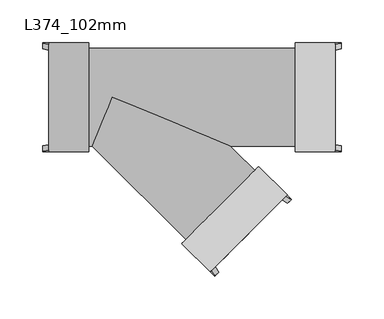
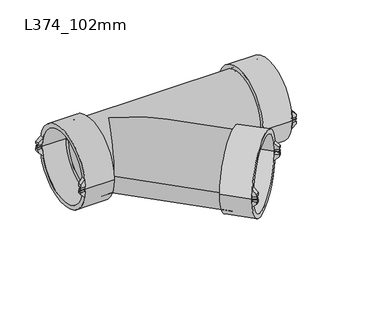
"""IFC4 building model written with IfcOpenShell, lengths in millimetres: pipe fitting geometry, Durapipe_PipeFitting_VulcatheneEnfusion_SingleWye_L37 : L374_102mm."""

from ifc_helpers import new_model, si_unit, point, frame, frame_2d, origin, place, context, project, spatial, polyline, circle_curve, ellipse_curve, trimmed, segment, composite_curve, outline, extrude, source, transform, mapped, element, save
from ifc_brep_helpers import plane_surface, cylinder_surface, revolved_surface, advanced_brep


def l374_102mm_1b7b02f5(model_context):
    return source(origin(), model_context, "Body", "SolidModel", [
        advanced_brep(
        [(204.6909011, -123.8309095, 5.784761), (209.1810291, -119.3407814, 5.987723), (208.9166938, -119.6051167, 9.9669854), (204.3872457, -124.1345648, 9.9669854), (202.9801459, -115.5007483, 17.0269854), (204.160571, -114.3203232, 5.987723), (199.6704429, -118.8104513, 5.784761), (198.3447308, -120.1361635, 17.0269854)],
        [
            (0, 1, circle_curve(frame((207.0231879, -121.4986227, 2.0269854), z_axis=(-0.7071067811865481, 0.7071067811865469, 0.0), x_axis=(-0.7071067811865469, -0.7071067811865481, 0.0)), 5.0)),
            (1, 2, circle_curve(frame((164.2609053, -164.2609053, 2.0269854), z_axis=(0.7071067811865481, -0.7071067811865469, 0.0), x_axis=(-0.7071067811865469, -0.7071067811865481, 0.0)), 63.65)),
            (2, 3),
            (3, 0, circle_curve(frame((164.2609053, -164.2609053, 2.0269854), z_axis=(-0.7071067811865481, 0.7071067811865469, 0.0), x_axis=(-0.7071067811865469, -0.7071067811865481, 0.0)), 57.3)),
            (4, 5, circle_curve(frame((159.2404471, -159.2404471, 2.0269854), z_axis=(-0.7071067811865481, 0.7071067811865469, 0.0), x_axis=(-0.7071067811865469, -0.7071067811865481, 0.0)), 63.65)),
            (5, 6, circle_curve(frame((202.0027297, -116.4781645, 2.0269854), z_axis=(0.7071067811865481, -0.7071067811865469, 0.0), x_axis=(-0.7071067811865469, -0.7071067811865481, 0.0)), 5.0)),
            (6, 7, circle_curve(frame((159.2404471, -159.2404471, 2.0269854), z_axis=(0.7071067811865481, -0.7071067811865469, 0.0), x_axis=(-0.7071067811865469, -0.7071067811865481, 0.0)), 57.3)),
            (7, 4),
            (6, 0),
            (3, 7, ellipse_curve(frame((169.9071429, -169.9071429, 2.0269854), z_axis=(0.4985855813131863, -0.4985855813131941, 0.7091014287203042), x_axis=(-0.5014104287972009, 0.5014104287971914, 0.7051064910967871)), 81.2643207, 57.3)),
            (4, 2, ellipse_curve(frame((169.9071429, -169.9071429, 2.0269854), z_axis=(-0.4985855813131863, 0.4985855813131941, -0.7091014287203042), x_axis=(0.5014104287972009, -0.5014104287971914, -0.7051064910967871)), 90.2700525, 63.65)),
            (1, 5),
        ],
        [
            plane_surface(frame((208.0006041, -120.5212065, 17.0269854), z_axis=(0.7071067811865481, -0.7071067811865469, 0.0), x_axis=(-0.7071067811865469, -0.7071067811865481, 0.0))),
            plane_surface(frame((202.9801459, -115.5007483, 17.0269854), z_axis=(-0.7071067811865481, 0.7071067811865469, 0.0), x_axis=(0.7071067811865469, 0.7071067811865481, 0.0))),
            revolved_surface(polyline([(88.64314644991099, -169.67758357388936, 2.0269854), (170.13670222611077, -251.17113935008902, 2.0269854)]), (159.2404471, -159.2404471, 2.0269854), (-0.7071067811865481, 0.7071067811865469, 0.0)),
            cylinder_surface(frame((159.2404471, -159.2404471, 2.0269854), z_axis=(0.7071067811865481, -0.7071067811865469, 0.0), x_axis=(-0.7071067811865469, -0.7071067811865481, 0.0)), 63.65),
            revolved_surface(polyline([(203.48765399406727, -125.03415660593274, 2.0269854), (198.46719579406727, -120.01369840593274, 2.0269854)]), (202.0027297, -116.4781645, 2.0269854), (0.7071067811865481, -0.7071067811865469, 0.0)),
            plane_surface(frame((114.2331005, -204.2477937, 17.0269854), z_axis=(0.4985855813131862, -0.49858558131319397, 0.7091014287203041), x_axis=(0.7071067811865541, 0.7071067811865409, 0.0))),
        ],
        [
            (0, [[1, 2, 3, 4]]),
            (1, [[5, 6, 7, 8]]),
            (2, [[-7, 9, -4, 10]]),
            (3, [[-5, 11, -2, 12]]),
            (4, [[-1, -9, -6, -12]]),
            (5, [[-3, -11, -8, -10]]),
        ],
    ),
        advanced_brep(
        [(209.1810291, -119.3407814, -1.9337521), (204.6909011, -123.8309095, -1.7307901), (204.3872457, -124.1345648, -5.9130146), (208.9166938, -119.6051167, -5.9130146), (204.160571, -114.3203232, -1.9337521), (202.9801459, -115.5007483, -12.9730146), (198.3447308, -120.1361635, -12.9730146), (199.6704429, -118.8104513, -1.7307901)],
        [
            (0, 1, circle_curve(frame((207.0231879, -121.4986227, 2.0269854), z_axis=(-0.7071067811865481, 0.7071067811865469, 0.0), x_axis=(-0.7071067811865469, -0.7071067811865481, 0.0)), 5.0)),
            (1, 2, circle_curve(frame((164.2609053, -164.2609053, 2.0269854), z_axis=(-0.7071067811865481, 0.7071067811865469, 0.0), x_axis=(-0.7071067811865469, -0.7071067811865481, 0.0)), 57.3)),
            (2, 3),
            (3, 0, circle_curve(frame((164.2609053, -164.2609053, 2.0269854), z_axis=(0.7071067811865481, -0.7071067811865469, 0.0), x_axis=(-0.7071067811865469, -0.7071067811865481, 0.0)), 63.65)),
            (4, 5, circle_curve(frame((159.2404471, -159.2404471, 2.0269854), z_axis=(-0.7071067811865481, 0.7071067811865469, 0.0), x_axis=(-0.7071067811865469, -0.7071067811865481, 0.0)), 63.65)),
            (5, 6),
            (6, 7, circle_curve(frame((159.2404471, -159.2404471, 2.0269854), z_axis=(0.7071067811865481, -0.7071067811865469, 0.0), x_axis=(-0.7071067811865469, -0.7071067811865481, 0.0)), 57.3)),
            (7, 4, circle_curve(frame((202.0027297, -116.4781645, 2.0269854), z_axis=(0.7071067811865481, -0.7071067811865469, 0.0), x_axis=(-0.7071067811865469, -0.7071067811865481, 0.0)), 5.0)),
            (6, 2, ellipse_curve(frame((169.9071429, -169.9071429, 2.0269854), z_axis=(0.49858558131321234, -0.4985855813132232, -0.7091014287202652), x_axis=(-0.5014104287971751, 0.5014104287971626, -0.7051064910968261)), 81.2643207, 57.3)),
            (1, 7),
            (4, 0),
            (3, 5, ellipse_curve(frame((169.9071429, -169.9071429, 2.0269854), z_axis=(-0.49858558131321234, 0.4985855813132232, 0.7091014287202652), x_axis=(0.5014104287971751, -0.5014104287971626, 0.7051064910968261)), 90.2700525, 63.65)),
        ],
        [
            plane_surface(frame((208.0006041, -120.5212065, 17.0269854), z_axis=(0.7071067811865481, -0.7071067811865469, 0.0), x_axis=(-0.7071067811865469, -0.7071067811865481, 0.0))),
            plane_surface(frame((202.9801459, -115.5007483, 17.0269854), z_axis=(-0.7071067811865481, 0.7071067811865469, 0.0), x_axis=(0.7071067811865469, 0.7071067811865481, 0.0))),
            revolved_surface(polyline([(88.6431464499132, -169.67758357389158, 2.0269854), (170.13670222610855, -251.1711393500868, 2.0269854)]), (159.2404471, -159.2404471, 2.0269854), (-0.7071067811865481, 0.7071067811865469, 0.0)),
            cylinder_surface(frame((159.2404471, -159.2404471, 2.0269854), z_axis=(0.7071067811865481, -0.7071067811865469, 0.0), x_axis=(-0.7071067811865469, -0.7071067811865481, 0.0)), 63.65),
            revolved_surface(polyline([(203.48765399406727, -125.03415660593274, 2.0269854), (198.46719579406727, -120.01369840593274, 2.0269854)]), (202.0027297, -116.4781645, 2.0269854), (0.7071067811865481, -0.7071067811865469, 0.0)),
            plane_surface(frame((119.2535586, -209.2682519, -5.9130146), z_axis=(0.49858558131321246, -0.49858558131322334, -0.7091014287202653), x_axis=(0.7071067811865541, 0.7071067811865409, 0.0))),
        ],
        [
            (0, [[1, 2, 3, 4]]),
            (1, [[5, 6, 7, 8]]),
            (2, [[-7, 9, -2, 10]]),
            (3, [[-5, 11, -4, 12]]),
            (4, [[-1, -11, -8, -10]]),
            (5, [[-3, -9, -6, -12]]),
        ],
    ),
        advanced_brep(
        [(119.3407814, -209.1810291, 5.987723), (123.8309095, -204.6909011, 5.784761), (124.1345648, -204.3872457, 9.9669854), (119.6051167, -208.9166938, 9.9669854), (114.3203232, -204.160571, 5.987723), (115.5007483, -202.9801459, 17.0269854), (120.1361635, -198.3447308, 17.0269854), (118.8104513, -199.6704429, 5.784761)],
        [
            (0, 1, circle_curve(frame((121.4986227, -207.0231879, 2.0269854), z_axis=(-0.7071067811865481, 0.7071067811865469, 0.0), x_axis=(-0.7071067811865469, -0.7071067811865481, 0.0)), 5.0)),
            (1, 2, circle_curve(frame((164.2609053, -164.2609053, 2.0269854), z_axis=(-0.7071067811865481, 0.7071067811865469, 0.0), x_axis=(-0.7071067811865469, -0.7071067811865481, 0.0)), 57.3)),
            (2, 3),
            (3, 0, circle_curve(frame((164.2609053, -164.2609053, 2.0269854), z_axis=(0.7071067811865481, -0.7071067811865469, 0.0), x_axis=(-0.7071067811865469, -0.7071067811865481, 0.0)), 63.65)),
            (4, 5, circle_curve(frame((159.2404471, -159.2404471, 2.0269854), z_axis=(-0.7071067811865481, 0.7071067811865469, 0.0), x_axis=(-0.7071067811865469, -0.7071067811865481, 0.0)), 63.65)),
            (5, 6),
            (6, 7, circle_curve(frame((159.2404471, -159.2404471, 2.0269854), z_axis=(0.7071067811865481, -0.7071067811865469, 0.0), x_axis=(-0.7071067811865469, -0.7071067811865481, 0.0)), 57.3)),
            (7, 4, circle_curve(frame((116.4781645, -202.0027297, 2.0269854), z_axis=(0.7071067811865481, -0.7071067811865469, 0.0), x_axis=(-0.7071067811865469, -0.7071067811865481, 0.0)), 5.0)),
            (6, 2, ellipse_curve(frame((169.9071429, -169.9071429, 2.0269854), z_axis=(0.4985855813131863, -0.4985855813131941, 0.7091014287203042), x_axis=(-0.5014104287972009, 0.5014104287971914, 0.7051064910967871)), 81.2643207, 57.3)),
            (1, 7),
            (4, 0),
            (3, 5, ellipse_curve(frame((169.9071429, -169.9071429, 2.0269854), z_axis=(-0.4985855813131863, 0.4985855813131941, -0.7091014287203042), x_axis=(0.5014104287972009, -0.5014104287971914, -0.7051064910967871)), 90.2700525, 63.65)),
        ],
        [
            plane_surface(frame((208.0006041, -120.5212065, 17.0269854), z_axis=(0.7071067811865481, -0.7071067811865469, 0.0), x_axis=(-0.7071067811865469, -0.7071067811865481, 0.0))),
            plane_surface(frame((202.9801459, -115.5007483, 17.0269854), z_axis=(-0.7071067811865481, 0.7071067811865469, 0.0), x_axis=(0.7071067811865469, 0.7071067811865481, 0.0))),
            revolved_surface(polyline([(88.64314644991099, -169.67758357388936, 2.0269854), (170.13670222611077, -251.17113935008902, 2.0269854)]), (159.2404471, -159.2404471, 2.0269854), (-0.7071067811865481, 0.7071067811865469, 0.0)),
            cylinder_surface(frame((159.2404471, -159.2404471, 2.0269854), z_axis=(0.7071067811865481, -0.7071067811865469, 0.0), x_axis=(-0.7071067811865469, -0.7071067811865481, 0.0)), 63.65),
            revolved_surface(polyline([(117.96308879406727, -210.55872180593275, 2.0269854), (112.94263059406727, -205.53826360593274, 2.0269854)]), (116.4781645, -202.0027297, 2.0269854), (0.7071067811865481, -0.7071067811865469, 0.0)),
            plane_surface(frame((114.2331005, -204.2477937, 17.0269854), z_axis=(0.4985855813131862, -0.49858558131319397, 0.7091014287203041), x_axis=(0.7071067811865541, 0.7071067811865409, 0.0))),
        ],
        [
            (0, [[1, 2, 3, 4]]),
            (1, [[5, 6, 7, 8]]),
            (2, [[-7, 9, -2, 10]]),
            (3, [[-5, 11, -4, 12]]),
            (4, [[-1, -11, -8, -10]]),
            (5, [[-3, -9, -6, -12]]),
        ],
    ),
        advanced_brep(
        [(123.8309095, -204.6909011, -1.7307901), (119.3407814, -209.1810291, -1.9337521), (119.6051167, -208.9166938, -5.9130146), (124.1345648, -204.3872457, -5.9130146), (115.5007483, -202.9801459, -12.9730146), (114.3203232, -204.160571, -1.9337521), (118.8104513, -199.6704429, -1.7307901), (120.1361635, -198.3447308, -12.9730146)],
        [
            (0, 1, circle_curve(frame((121.4986227, -207.0231879, 2.0269854), z_axis=(-0.7071067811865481, 0.7071067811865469, 0.0), x_axis=(-0.7071067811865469, -0.7071067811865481, 0.0)), 5.0)),
            (1, 2, circle_curve(frame((164.2609053, -164.2609053, 2.0269854), z_axis=(0.7071067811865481, -0.7071067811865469, 0.0), x_axis=(-0.7071067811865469, -0.7071067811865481, 0.0)), 63.65)),
            (2, 3),
            (3, 0, circle_curve(frame((164.2609053, -164.2609053, 2.0269854), z_axis=(-0.7071067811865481, 0.7071067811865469, 0.0), x_axis=(-0.7071067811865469, -0.7071067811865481, 0.0)), 57.3)),
            (4, 5, circle_curve(frame((159.2404471, -159.2404471, 2.0269854), z_axis=(-0.7071067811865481, 0.7071067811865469, 0.0), x_axis=(-0.7071067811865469, -0.7071067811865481, 0.0)), 63.65)),
            (5, 6, circle_curve(frame((116.4781645, -202.0027297, 2.0269854), z_axis=(0.7071067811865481, -0.7071067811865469, 0.0), x_axis=(-0.7071067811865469, -0.7071067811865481, 0.0)), 5.0)),
            (6, 7, circle_curve(frame((159.2404471, -159.2404471, 2.0269854), z_axis=(0.7071067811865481, -0.7071067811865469, 0.0), x_axis=(-0.7071067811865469, -0.7071067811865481, 0.0)), 57.3)),
            (7, 4),
            (6, 0),
            (3, 7, ellipse_curve(frame((169.9071429, -169.9071429, 2.0269854), z_axis=(0.49858558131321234, -0.4985855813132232, -0.7091014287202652), x_axis=(-0.5014104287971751, 0.5014104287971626, -0.7051064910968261)), 81.2643207, 57.3)),
            (4, 2, ellipse_curve(frame((169.9071429, -169.9071429, 2.0269854), z_axis=(-0.49858558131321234, 0.4985855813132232, 0.7091014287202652), x_axis=(0.5014104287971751, -0.5014104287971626, 0.7051064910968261)), 90.2700525, 63.65)),
            (1, 5),
        ],
        [
            plane_surface(frame((208.0006041, -120.5212065, 17.0269854), z_axis=(0.7071067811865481, -0.7071067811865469, 0.0), x_axis=(-0.7071067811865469, -0.7071067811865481, 0.0))),
            plane_surface(frame((202.9801459, -115.5007483, 17.0269854), z_axis=(-0.7071067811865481, 0.7071067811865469, 0.0), x_axis=(0.7071067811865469, 0.7071067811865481, 0.0))),
            revolved_surface(polyline([(88.6431464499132, -169.67758357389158, 2.0269854), (170.13670222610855, -251.1711393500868, 2.0269854)]), (159.2404471, -159.2404471, 2.0269854), (-0.7071067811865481, 0.7071067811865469, 0.0)),
            cylinder_surface(frame((159.2404471, -159.2404471, 2.0269854), z_axis=(0.7071067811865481, -0.7071067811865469, 0.0), x_axis=(-0.7071067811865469, -0.7071067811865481, 0.0)), 63.65),
            revolved_surface(polyline([(117.96308879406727, -210.55872180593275, 2.0269854), (112.94263059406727, -205.53826360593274, 2.0269854)]), (116.4781645, -202.0027297, 2.0269854), (0.7071067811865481, -0.7071067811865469, 0.0)),
            plane_surface(frame((119.2535586, -209.2682519, -5.9130146), z_axis=(0.49858558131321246, -0.49858558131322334, -0.7091014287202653), x_axis=(0.7071067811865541, 0.7071067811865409, 0.0))),
        ],
        [
            (0, [[1, 2, 3, 4]]),
            (1, [[5, 6, 7, 8]]),
            (2, [[-7, 9, -4, 10]]),
            (3, [[-5, 11, -2, 12]]),
            (4, [[-1, -9, -6, -12]]),
            (5, [[-3, -11, -8, -10]]),
        ],
    ),
        extrude(outline(composite_curve([segment(trimmed(circle_curve(frame_2d((0.0, -2.0)), 2.0), [point((0.0, -4.0))], [point((0.0, 0.0))], False, "CARTESIAN"), True, "CONTINUOUS"), segment(trimmed(circle_curve(frame_2d((0.0, -2.0)), 2.0), [point((0.0, 0.0))], [point((0.0, -4.0))], False, "CARTESIAN"), True, "CONTINUOUS")], self_intersect=False)), frame((205.6089743, -122.9128362, 2.0269854), z_axis=(-0.7071067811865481, 0.7071067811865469, 0.0), x_axis=(0.0, 0.0, -1.0)), (0.0, 0.0, 1.0), 7.1),
        extrude(outline(composite_curve([segment(trimmed(circle_curve(frame_2d((0.0, 118.95)), 2.0), [point((0.0, 116.9500001))], [point((0.0, 120.95))], False, "CARTESIAN"), True, "CONTINUOUS"), segment(trimmed(circle_curve(frame_2d((0.0, 118.95)), 2.0), [point((0.0, 120.95))], [point((0.0, 116.9500001))], False, "CARTESIAN"), True, "CONTINUOUS")], self_intersect=False)), frame((205.6089743, -122.9128362, 2.0269854), z_axis=(-0.7071067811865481, 0.7071067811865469, 0.0), x_axis=(0.0, 0.0, -1.0)), (0.0, 0.0, 1.0), 7.1),
        advanced_brep(
        [(168.1853479, -96.4140096, 2.0269854), (96.4140096, -168.1853479, 2.0269854), (91.8885262, -172.7108313, 2.0269854), (172.7108313, -91.8885262, 2.0269854), (161.9628082, -90.1914699, 2.0269854), (90.1914699, -161.9628082, 2.0269854), (171.1905517, -80.9637264, 2.0269854), (80.9637264, -171.1905517, 2.0269854), (204.3538598, -114.1270345, 2.0269854), (114.1270345, -204.3538598, 2.0269854), (199.6515997, -118.8292946, 2.0269854), (118.8292946, -199.6515997, 2.0269854)],
        [
            (0, 1, circle_curve(frame((132.2996788, -132.2996788, 2.0269854), z_axis=(-0.7071067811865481, 0.7071067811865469, 0.0), x_axis=(-0.7071067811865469, -0.7071067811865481, 0.0)), 50.75)),
            (1, 2),
            (2, 3, circle_curve(frame((132.2996788, -132.2996788, 2.0269854), z_axis=(0.7071067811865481, -0.7071067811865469, 0.0), x_axis=(-0.7071067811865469, -0.7071067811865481, 0.0)), 57.15)),
            (3, 0),
            (1, 0, circle_curve(frame((132.2996788, -132.2996788, 2.0269854), z_axis=(-0.7071067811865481, 0.7071067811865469, 0.0), x_axis=(-0.7071067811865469, -0.7071067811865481, 0.0)), 50.75)),
            (3, 2, circle_curve(frame((132.2996788, -132.2996788, 2.0269854), z_axis=(0.7071067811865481, -0.7071067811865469, 0.0), x_axis=(-0.7071067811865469, -0.7071067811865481, 0.0)), 57.15)),
            (4, 5, circle_curve(frame((126.0771391, -126.0771391, 2.0269854), z_axis=(-0.7071067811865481, 0.7071067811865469, 0.0), x_axis=(-0.7071067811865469, -0.7071067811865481, 0.0)), 50.75)),
            (5, 1),
            (0, 4),
            (5, 4, circle_curve(frame((126.0771391, -126.0771391, 2.0269854), z_axis=(-0.7071067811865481, 0.7071067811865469, 0.0), x_axis=(-0.7071067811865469, -0.7071067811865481, 0.0)), 50.75)),
            (6, 7, circle_curve(frame((126.0771391, -126.0771391, 2.0269854), z_axis=(-0.7071067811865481, 0.7071067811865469, 0.0), x_axis=(-0.7071067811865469, -0.7071067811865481, 0.0)), 63.8)),
            (7, 5),
            (4, 6),
            (7, 6, circle_curve(frame((126.0771391, -126.0771391, 2.0269854), z_axis=(-0.7071067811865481, 0.7071067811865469, 0.0), x_axis=(-0.7071067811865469, -0.7071067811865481, 0.0)), 63.8)),
            (8, 9, circle_curve(frame((159.2404471, -159.2404471, 2.0269854), z_axis=(-0.7071067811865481, 0.7071067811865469, 0.0), x_axis=(-0.7071067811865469, -0.7071067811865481, 0.0)), 63.8)),
            (9, 7),
            (6, 8),
            (9, 8, circle_curve(frame((159.2404471, -159.2404471, 2.0269854), z_axis=(-0.7071067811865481, 0.7071067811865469, 0.0), x_axis=(-0.7071067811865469, -0.7071067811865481, 0.0)), 63.8)),
            (10, 11, circle_curve(frame((159.2404471, -159.2404471, 2.0269854), z_axis=(-0.7071067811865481, 0.7071067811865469, 0.0), x_axis=(-0.7071067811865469, -0.7071067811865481, 0.0)), 57.15)),
            (11, 9),
            (8, 10),
            (11, 10, circle_curve(frame((159.2404471, -159.2404471, 2.0269854), z_axis=(-0.7071067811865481, 0.7071067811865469, 0.0), x_axis=(-0.7071067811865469, -0.7071067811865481, 0.0)), 57.15)),
            (2, 11),
            (10, 3),
        ],
        [
            plane_surface(frame((132.2996788, -132.2996788, 2.0269854), z_axis=(0.7071067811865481, -0.7071067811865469, 0.0), x_axis=(-0.7071067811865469, -0.7071067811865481, 0.0))),
            revolved_surface(polyline([(96.41400965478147, -168.1853479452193, 2.0269854), (90.19146990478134, -161.96280819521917, 2.0269854)]), (1936.8946084, -1936.8946084, 2.0269854), (0.7071067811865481, -0.7071067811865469, 0.0)),
            plane_surface(frame((126.0771391, -126.0771391, 2.0269854), z_axis=(-0.7071067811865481, 0.7071067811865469, 0.0), x_axis=(-0.7071067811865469, -0.7071067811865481, 0.0))),
            cylinder_surface(frame((1936.8946084, -1936.8946084, 2.0269854), z_axis=(0.7071067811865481, -0.7071067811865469, 0.0), x_axis=(-0.7071067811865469, -0.7071067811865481, 0.0)), 63.8),
            plane_surface(frame((159.2404471, -159.2404471, 2.0269854), z_axis=(0.7071067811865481, -0.7071067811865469, 0.0), x_axis=(-0.7071067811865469, -0.7071067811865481, 0.0))),
            revolved_surface(polyline([(118.82929460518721, -199.6515996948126, 2.0269854), (91.88852620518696, -172.71083129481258, 2.0269854)]), (1936.8946084, -1936.8946084, 2.0269854), (0.7071067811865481, -0.7071067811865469, 0.0)),
        ],
        [
            (0, [[1, 2, 3, 4]]),
            (0, [[5, -4, 6, -2]]),
            (1, [[7, 8, -1, 9]]),
            (1, [[10, -9, -5, -8]]),
            (2, [[11, 12, -7, 13]]),
            (2, [[14, -13, -10, -12]]),
            (3, [[15, 16, -11, 17]]),
            (3, [[18, -17, -14, -16]]),
            (4, [[19, 20, -15, 21]]),
            (4, [[22, -21, -18, -20]]),
            (5, [[-3, 23, -19, 24]]),
            (5, [[-6, -24, -22, -23]]),
        ],
    ),
        advanced_brep(
        [(-81.6, -57.1766484, 3.7577755), (-81.6, -63.5266484, 3.9607376), (-81.6, -63.1528218, 7.94), (-81.6, -56.7472149, 7.94), (-74.5, -61.8572752, 15.0), (-74.5, -63.5266484, 3.9607376), (-74.5, -57.1766484, 3.7577755), (-74.5, -55.3018083, 15.0)],
        [
            (0, 1, circle_curve(frame((-81.6, -60.475, 0.0), z_axis=(1.0, 0.0, 0.0), x_axis=(0.0, 1.0, 0.0)), 5.0)),
            (1, 2, circle_curve(frame((-81.6, 0.0, 0.0), z_axis=(-1.0, 0.0, 0.0), x_axis=(0.0, 1.0, 0.0)), 63.65)),
            (2, 3),
            (3, 0, circle_curve(frame((-81.6, 0.0, 0.0), z_axis=(1.0, 0.0, 0.0), x_axis=(0.0, 1.0, 0.0)), 57.3)),
            (4, 5, circle_curve(frame((-74.5, 0.0, 0.0), z_axis=(1.0, 0.0, 0.0), x_axis=(0.0, 1.0, 0.0)), 63.65)),
            (5, 6, circle_curve(frame((-74.5, -60.475, 0.0), z_axis=(-1.0, 0.0, 0.0), x_axis=(0.0, 1.0, 0.0)), 5.0)),
            (6, 7, circle_curve(frame((-74.5, 0.0, 0.0), z_axis=(-1.0, 0.0, 0.0), x_axis=(0.0, 1.0, 0.0)), 57.3)),
            (7, 4),
            (6, 0),
            (3, 7, ellipse_curve(frame((-89.5849858, 0.0, 0.0), z_axis=(-0.705106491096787, 0.0, 0.7091014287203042), x_axis=(0.7091014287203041, 0.0, 0.705106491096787)), 81.2643207, 57.3)),
            (4, 2, ellipse_curve(frame((-89.5849858, 0.0, 0.0), z_axis=(0.705106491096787, 0.0, -0.7091014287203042), x_axis=(-0.7091014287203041, 0.0, -0.705106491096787)), 90.2700525, 63.65)),
            (1, 5),
        ],
        [
            plane_surface(frame((-81.6, -61.8572752, 15.0), z_axis=(-1.0, 0.0, 0.0), x_axis=(0.0, 1.0, 0.0))),
            plane_surface(frame((-74.5, -61.8572752, 15.0), z_axis=(1.0, 0.0, 0.0), x_axis=(0.0, -1.0, 0.0))),
            revolved_surface(polyline([(-31.960339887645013, 57.3, 0.0), (-147.209631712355, 57.3, 0.0)]), (-74.5, 0.0, 0.0), (1.0, 0.0, 0.0)),
            cylinder_surface(frame((-74.5, 0.0, 0.0), z_axis=(-1.0, 0.0, 0.0), x_axis=(0.0, 1.0, 0.0)), 63.65),
            revolved_surface(polyline([(-81.6, -55.475, 0.0), (-74.5, -55.475, 0.0)]), (-74.5, -60.475, 0.0), (-1.0, 0.0, 0.0)),
            plane_surface(frame((-74.5, 63.65, 15.0), z_axis=(-0.705106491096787, 0.0, 0.7091014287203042), x_axis=(0.0, -1.0, 0.0))),
        ],
        [
            (0, [[1, 2, 3, 4]]),
            (1, [[5, 6, 7, 8]]),
            (2, [[-7, 9, -4, 10]]),
            (3, [[-5, 11, -2, 12]]),
            (4, [[-1, -9, -6, -12]]),
            (5, [[-3, -11, -8, -10]]),
        ],
    ),
        advanced_brep(
        [(-81.6, -63.5266484, -3.9607376), (-81.6, -57.1766484, -3.7577755), (-81.6, -56.7472149, -7.94), (-81.6, -63.1528218, -7.94), (-74.5, -63.5266484, -3.9607376), (-74.5, -61.8572752, -15.0), (-74.5, -55.3018083, -15.0), (-74.5, -57.1766484, -3.7577755)],
        [
            (0, 1, circle_curve(frame((-81.6, -60.475, 0.0), z_axis=(1.0, 0.0, 0.0), x_axis=(0.0, 1.0, 0.0)), 5.0)),
            (1, 2, circle_curve(frame((-81.6, 0.0, 0.0), z_axis=(1.0, 0.0, 0.0), x_axis=(0.0, 1.0, 0.0)), 57.3)),
            (2, 3),
            (3, 0, circle_curve(frame((-81.6, 0.0, 0.0), z_axis=(-1.0, 0.0, 0.0), x_axis=(0.0, 1.0, 0.0)), 63.65)),
            (4, 5, circle_curve(frame((-74.5, 0.0, 0.0), z_axis=(1.0, 0.0, 0.0), x_axis=(0.0, 1.0, 0.0)), 63.65)),
            (5, 6),
            (6, 7, circle_curve(frame((-74.5, 0.0, 0.0), z_axis=(-1.0, 0.0, 0.0), x_axis=(0.0, 1.0, 0.0)), 57.3)),
            (7, 4, circle_curve(frame((-74.5, -60.475, 0.0), z_axis=(-1.0, 0.0, 0.0), x_axis=(0.0, 1.0, 0.0)), 5.0)),
            (6, 2, ellipse_curve(frame((-89.5849858, 0.0, 0.0), z_axis=(-0.7051064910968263, 0.0, -0.7091014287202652), x_axis=(0.7091014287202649, 0.0, -0.7051064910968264)), 81.2643207, 57.3)),
            (1, 7),
            (4, 0),
            (3, 5, ellipse_curve(frame((-89.5849858, 0.0, 0.0), z_axis=(0.7051064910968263, 0.0, 0.7091014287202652), x_axis=(-0.7091014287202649, 0.0, 0.7051064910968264)), 90.2700525, 63.65)),
        ],
        [
            plane_surface(frame((-81.6, -61.8572752, 15.0), z_axis=(-1.0, 0.0, 0.0), x_axis=(0.0, 1.0, 0.0))),
            plane_surface(frame((-74.5, -61.8572752, 15.0), z_axis=(1.0, 0.0, 0.0), x_axis=(0.0, -1.0, 0.0))),
            revolved_surface(polyline([(-31.960339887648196, 57.3, 0.0), (-147.2096317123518, 57.3, 0.0)]), (-74.5, 0.0, 0.0), (1.0, 0.0, 0.0)),
            cylinder_surface(frame((-74.5, 0.0, 0.0), z_axis=(-1.0, 0.0, 0.0), x_axis=(0.0, 1.0, 0.0)), 63.65),
            revolved_surface(polyline([(-81.6, -55.475, 0.0), (-74.5, -55.475, 0.0)]), (-74.5, -60.475, 0.0), (-1.0, 0.0, 0.0)),
            plane_surface(frame((-81.6, 63.65, -7.94), z_axis=(-0.7051064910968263, 0.0, -0.7091014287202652), x_axis=(0.0, -1.0, 0.0))),
        ],
        [
            (0, [[1, 2, 3, 4]]),
            (1, [[5, 6, 7, 8]]),
            (2, [[-7, 9, -2, 10]]),
            (3, [[-5, 11, -4, 12]]),
            (4, [[-1, -11, -8, -10]]),
            (5, [[-3, -9, -6, -12]]),
        ],
    ),
        advanced_brep(
        [(-81.6, 63.5266484, 3.9607376), (-81.6, 57.1766484, 3.7577755), (-81.6, 56.7472149, 7.94), (-81.6, 63.1528218, 7.94), (-74.5, 63.5266484, 3.9607376), (-74.5, 61.8572752, 15.0), (-74.5, 55.3018083, 15.0), (-74.5, 57.1766484, 3.7577755)],
        [
            (0, 1, circle_curve(frame((-81.6, 60.475, 0.0), z_axis=(1.0, 0.0, 0.0), x_axis=(0.0, 1.0, 0.0)), 5.0)),
            (1, 2, circle_curve(frame((-81.6, 0.0, 0.0), z_axis=(1.0, 0.0, 0.0), x_axis=(0.0, 1.0, 0.0)), 57.3)),
            (2, 3),
            (3, 0, circle_curve(frame((-81.6, 0.0, 0.0), z_axis=(-1.0, 0.0, 0.0), x_axis=(0.0, 1.0, 0.0)), 63.65)),
            (4, 5, circle_curve(frame((-74.5, 0.0, 0.0), z_axis=(1.0, 0.0, 0.0), x_axis=(0.0, 1.0, 0.0)), 63.65)),
            (5, 6),
            (6, 7, circle_curve(frame((-74.5, 0.0, 0.0), z_axis=(-1.0, 0.0, 0.0), x_axis=(0.0, 1.0, 0.0)), 57.3)),
            (7, 4, circle_curve(frame((-74.5, 60.475, 0.0), z_axis=(-1.0, 0.0, 0.0), x_axis=(0.0, 1.0, 0.0)), 5.0)),
            (6, 2, ellipse_curve(frame((-89.5849858, 0.0, 0.0), z_axis=(-0.705106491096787, 0.0, 0.7091014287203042), x_axis=(0.7091014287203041, 0.0, 0.705106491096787)), 81.2643207, 57.3)),
            (1, 7),
            (4, 0),
            (3, 5, ellipse_curve(frame((-89.5849858, 0.0, 0.0), z_axis=(0.705106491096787, 0.0, -0.7091014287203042), x_axis=(-0.7091014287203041, 0.0, -0.705106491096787)), 90.2700525, 63.65)),
        ],
        [
            plane_surface(frame((-81.6, -61.8572752, 15.0), z_axis=(-1.0, 0.0, 0.0), x_axis=(0.0, 1.0, 0.0))),
            plane_surface(frame((-74.5, -61.8572752, 15.0), z_axis=(1.0, 0.0, 0.0), x_axis=(0.0, -1.0, 0.0))),
            revolved_surface(polyline([(-31.960339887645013, 57.3, 0.0), (-147.209631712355, 57.3, 0.0)]), (-74.5, 0.0, 0.0), (1.0, 0.0, 0.0)),
            cylinder_surface(frame((-74.5, 0.0, 0.0), z_axis=(-1.0, 0.0, 0.0), x_axis=(0.0, 1.0, 0.0)), 63.65),
            revolved_surface(polyline([(-81.6, 65.475, 0.0), (-74.5, 65.475, 0.0)]), (-74.5, 60.475, 0.0), (-1.0, 0.0, 0.0)),
            plane_surface(frame((-74.5, 63.65, 15.0), z_axis=(-0.705106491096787, 0.0, 0.7091014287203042), x_axis=(0.0, -1.0, 0.0))),
        ],
        [
            (0, [[1, 2, 3, 4]]),
            (1, [[5, 6, 7, 8]]),
            (2, [[-7, 9, -2, 10]]),
            (3, [[-5, 11, -4, 12]]),
            (4, [[-1, -11, -8, -10]]),
            (5, [[-3, -9, -6, -12]]),
        ],
    ),
        advanced_brep(
        [(-81.6, 57.1766484, -3.7577755), (-81.6, 63.5266484, -3.9607376), (-81.6, 63.1528218, -7.94), (-81.6, 56.7472149, -7.94), (-74.5, 61.8572752, -15.0), (-74.5, 63.5266484, -3.9607376), (-74.5, 57.1766484, -3.7577755), (-74.5, 55.3018083, -15.0)],
        [
            (0, 1, circle_curve(frame((-81.6, 60.475, 0.0), z_axis=(1.0, 0.0, 0.0), x_axis=(0.0, 1.0, 0.0)), 5.0)),
            (1, 2, circle_curve(frame((-81.6, 0.0, 0.0), z_axis=(-1.0, 0.0, 0.0), x_axis=(0.0, 1.0, 0.0)), 63.65)),
            (2, 3),
            (3, 0, circle_curve(frame((-81.6, 0.0, 0.0), z_axis=(1.0, 0.0, 0.0), x_axis=(0.0, 1.0, 0.0)), 57.3)),
            (4, 5, circle_curve(frame((-74.5, 0.0, 0.0), z_axis=(1.0, 0.0, 0.0), x_axis=(0.0, 1.0, 0.0)), 63.65)),
            (5, 6, circle_curve(frame((-74.5, 60.475, 0.0), z_axis=(-1.0, 0.0, 0.0), x_axis=(0.0, 1.0, 0.0)), 5.0)),
            (6, 7, circle_curve(frame((-74.5, 0.0, 0.0), z_axis=(-1.0, 0.0, 0.0), x_axis=(0.0, 1.0, 0.0)), 57.3)),
            (7, 4),
            (6, 0),
            (3, 7, ellipse_curve(frame((-89.5849858, 0.0, 0.0), z_axis=(-0.7051064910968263, 0.0, -0.7091014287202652), x_axis=(0.7091014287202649, 0.0, -0.7051064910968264)), 81.2643207, 57.3)),
            (4, 2, ellipse_curve(frame((-89.5849858, 0.0, 0.0), z_axis=(0.7051064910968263, 0.0, 0.7091014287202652), x_axis=(-0.7091014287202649, 0.0, 0.7051064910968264)), 90.2700525, 63.65)),
            (1, 5),
        ],
        [
            plane_surface(frame((-81.6, -61.8572752, 15.0), z_axis=(-1.0, 0.0, 0.0), x_axis=(0.0, 1.0, 0.0))),
            plane_surface(frame((-74.5, -61.8572752, 15.0), z_axis=(1.0, 0.0, 0.0), x_axis=(0.0, -1.0, 0.0))),
            revolved_surface(polyline([(-31.960339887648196, 57.3, 0.0), (-147.2096317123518, 57.3, 0.0)]), (-74.5, 0.0, 0.0), (1.0, 0.0, 0.0)),
            cylinder_surface(frame((-74.5, 0.0, 0.0), z_axis=(-1.0, 0.0, 0.0), x_axis=(0.0, 1.0, 0.0)), 63.65),
            revolved_surface(polyline([(-81.6, 65.475, 0.0), (-74.5, 65.475, 0.0)]), (-74.5, 60.475, 0.0), (-1.0, 0.0, 0.0)),
            plane_surface(frame((-81.6, 63.65, -7.94), z_axis=(-0.7051064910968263, 0.0, -0.7091014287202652), x_axis=(0.0, -1.0, 0.0))),
        ],
        [
            (0, [[1, 2, 3, 4]]),
            (1, [[5, 6, 7, 8]]),
            (2, [[-7, 9, -4, 10]]),
            (3, [[-5, 11, -2, 12]]),
            (4, [[-1, -9, -6, -12]]),
            (5, [[-3, -11, -8, -10]]),
        ],
    ),
        extrude(outline(composite_curve([segment(trimmed(circle_curve(frame_2d((-60.475, 0.0)), 2.0), [point((-62.475, 0.0))], [point((-58.475, 0.0))], False, "CARTESIAN"), True, "CONTINUOUS"), segment(trimmed(circle_curve(frame_2d((-60.475, 0.0)), 2.0), [point((-58.475, 0.0))], [point((-62.475, 0.0))], False, "CARTESIAN"), True, "CONTINUOUS")], self_intersect=False)), frame((-81.6, 0.0, 0.0), z_axis=(1.0, 0.0, 0.0), x_axis=(0.0, 1.0, 0.0)), (0.0, 0.0, 1.0), 7.1),
        extrude(outline(composite_curve([segment(trimmed(circle_curve(frame_2d((60.475, 0.0)), 2.0), [point((58.475, 0.0))], [point((62.475, 0.0))], False, "CARTESIAN"), True, "CONTINUOUS"), segment(trimmed(circle_curve(frame_2d((60.475, 0.0)), 2.0), [point((62.475, 0.0))], [point((58.475, 0.0))], False, "CARTESIAN"), True, "CONTINUOUS")], self_intersect=False)), frame((-81.6, 0.0, 0.0), z_axis=(1.0, 0.0, 0.0), x_axis=(0.0, 1.0, 0.0)), (0.0, 0.0, 1.0), 7.1),
        advanced_brep(
        [(-36.4, -50.75, 0.0), (-36.4, 50.75, 0.0), (-36.4, 57.15, 0.0), (-36.4, -57.15, 0.0), (-27.6, -50.75, 0.0), (-27.6, 50.75, 0.0), (-27.6, -63.8, 0.0), (-27.6, 63.8, 0.0), (-74.5, -63.8, 0.0), (-74.5, 63.8, 0.0), (-74.5, -57.15, 0.0), (-74.5, 57.15, 0.0)],
        [
            (0, 1, circle_curve(frame((-36.4, 0.0, 0.0), z_axis=(1.0, 0.0, 0.0), x_axis=(0.0, 1.0, 0.0)), 50.75)),
            (1, 2),
            (2, 3, circle_curve(frame((-36.4, 0.0, 0.0), z_axis=(-1.0, 0.0, 0.0), x_axis=(0.0, 1.0, 0.0)), 57.15)),
            (3, 0),
            (1, 0, circle_curve(frame((-36.4, 0.0, 0.0), z_axis=(1.0, 0.0, 0.0), x_axis=(0.0, 1.0, 0.0)), 50.75)),
            (3, 2, circle_curve(frame((-36.4, 0.0, 0.0), z_axis=(-1.0, 0.0, 0.0), x_axis=(0.0, 1.0, 0.0)), 57.15)),
            (4, 5, circle_curve(frame((-27.6, 0.0, 0.0), z_axis=(1.0, 0.0, 0.0), x_axis=(0.0, 1.0, 0.0)), 50.75)),
            (5, 1),
            (0, 4),
            (5, 4, circle_curve(frame((-27.6, 0.0, 0.0), z_axis=(1.0, 0.0, 0.0), x_axis=(0.0, 1.0, 0.0)), 50.75)),
            (6, 7, circle_curve(frame((-27.6, 0.0, 0.0), z_axis=(1.0, 0.0, 0.0), x_axis=(0.0, 1.0, 0.0)), 63.8)),
            (7, 5),
            (4, 6),
            (7, 6, circle_curve(frame((-27.6, 0.0, 0.0), z_axis=(1.0, 0.0, 0.0), x_axis=(0.0, 1.0, 0.0)), 63.8)),
            (8, 9, circle_curve(frame((-74.5, 0.0, 0.0), z_axis=(1.0, 0.0, 0.0), x_axis=(0.0, 1.0, 0.0)), 63.8)),
            (9, 7),
            (6, 8),
            (9, 8, circle_curve(frame((-74.5, 0.0, 0.0), z_axis=(1.0, 0.0, 0.0), x_axis=(0.0, 1.0, 0.0)), 63.8)),
            (10, 11, circle_curve(frame((-74.5, 0.0, 0.0), z_axis=(1.0, 0.0, 0.0), x_axis=(0.0, 1.0, 0.0)), 57.15)),
            (11, 9),
            (8, 10),
            (11, 10, circle_curve(frame((-74.5, 0.0, 0.0), z_axis=(1.0, 0.0, 0.0), x_axis=(0.0, 1.0, 0.0)), 57.15)),
            (2, 11),
            (10, 3),
        ],
        [
            plane_surface(frame((-36.4, 0.0, 0.0), z_axis=(-1.0, 0.0, 0.0), x_axis=(0.0, 1.0, 0.0))),
            revolved_surface(polyline([(-36.40000000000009, 50.75, 0.0), (-27.59999999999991, 50.75, 0.0)]), (-2588.4826241, 0.0, 0.0), (-1.0, 0.0, 0.0)),
            plane_surface(frame((-27.6, 0.0, 0.0), z_axis=(1.0, 0.0, 0.0), x_axis=(0.0, 1.0, 0.0))),
            cylinder_surface(frame((-2588.4826241, 0.0, 0.0), z_axis=(-1.0, 0.0, 0.0), x_axis=(0.0, 1.0, 0.0)), 63.8),
            plane_surface(frame((-74.5, 0.0, 0.0), z_axis=(-1.0, 0.0, 0.0), x_axis=(0.0, 1.0, 0.0))),
            revolved_surface(polyline([(-74.5, 57.15, 0.0), (-36.40000000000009, 57.15, 0.0)]), (-2588.4826241, 0.0, 0.0), (-1.0, 0.0, 0.0)),
        ],
        [
            (0, [[1, 2, 3, 4]]),
            (0, [[5, -4, 6, -2]]),
            (1, [[7, 8, -1, 9]]),
            (1, [[10, -9, -5, -8]]),
            (2, [[11, 12, -7, 13]]),
            (2, [[14, -13, -10, -12]]),
            (3, [[15, 16, -11, 17]]),
            (3, [[18, -17, -14, -16]]),
            (4, [[19, 20, -15, 21]]),
            (4, [[22, -21, -18, -20]]),
            (5, [[-3, 23, -19, 24]]),
            (5, [[-6, -24, -22, -23]]),
        ],
    ),
        advanced_brep(
        [(267.6, -57.1766484, -3.7577755), (267.6, -63.5266484, -3.9607376), (267.6, -63.1528218, -7.94), (267.6, -56.7472149, -7.94), (260.5, -61.8572752, -15.0), (260.5, -63.5266484, -3.9607376), (260.5, -57.1766484, -3.7577755), (260.5, -55.3018083, -15.0)],
        [
            (0, 1, circle_curve(frame((267.6, -60.475, 0.0), z_axis=(-1.0, 0.0, 0.0), x_axis=(0.0, 1.0, 0.0)), 5.0)),
            (1, 2, circle_curve(frame((267.6, 0.0, 0.0), z_axis=(1.0, 0.0, 0.0), x_axis=(0.0, 1.0, 0.0)), 63.65)),
            (2, 3),
            (3, 0, circle_curve(frame((267.6, 0.0, 0.0), z_axis=(-1.0, 0.0, 0.0), x_axis=(0.0, 1.0, 0.0)), 57.3)),
            (4, 5, circle_curve(frame((260.5, 0.0, 0.0), z_axis=(-1.0, 0.0, 0.0), x_axis=(0.0, 1.0, 0.0)), 63.65)),
            (5, 6, circle_curve(frame((260.5, -60.475, 0.0), z_axis=(1.0, 0.0, 0.0), x_axis=(0.0, 1.0, 0.0)), 5.0)),
            (6, 7, circle_curve(frame((260.5, 0.0, 0.0), z_axis=(1.0, 0.0, 0.0), x_axis=(0.0, 1.0, 0.0)), 57.3)),
            (7, 4),
            (6, 0),
            (3, 7, ellipse_curve(frame((275.5849858, 0.0, 0.0), z_axis=(0.705106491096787, 0.0, -0.7091014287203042), x_axis=(-0.7091014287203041, 0.0, -0.705106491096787)), 81.2643207, 57.3)),
            (4, 2, ellipse_curve(frame((275.5849858, 0.0, 0.0), z_axis=(-0.705106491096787, 0.0, 0.7091014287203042), x_axis=(0.7091014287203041, 0.0, 0.705106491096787)), 90.2700525, 63.65)),
            (1, 5),
        ],
        [
            plane_surface(frame((267.6, -61.8572752, -15.0), z_axis=(1.0, 0.0, 0.0), x_axis=(0.0, 1.0, 0.0))),
            plane_surface(frame((260.5, -61.8572752, -15.0), z_axis=(-1.0, 0.0, 0.0), x_axis=(0.0, -1.0, 0.0))),
            revolved_surface(polyline([(217.96033988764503, 57.3, 0.0), (333.209631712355, 57.3, 0.0)]), (260.5, 0.0, 0.0), (-1.0, 0.0, 0.0)),
            cylinder_surface(frame((260.5, 0.0, 0.0), z_axis=(1.0, 0.0, 0.0), x_axis=(0.0, 1.0, 0.0)), 63.65),
            revolved_surface(polyline([(267.6, -55.475, 0.0), (260.5, -55.475, 0.0)]), (260.5, -60.475, 0.0), (1.0, 0.0, 0.0)),
            plane_surface(frame((260.5, 63.65, -15.0), z_axis=(0.705106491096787, 0.0, -0.7091014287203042), x_axis=(0.0, -1.0, 0.0))),
        ],
        [
            (0, [[1, 2, 3, 4]]),
            (1, [[5, 6, 7, 8]]),
            (2, [[-7, 9, -4, 10]]),
            (3, [[-5, 11, -2, 12]]),
            (4, [[-1, -9, -6, -12]]),
            (5, [[-3, -11, -8, -10]]),
        ],
    ),
        advanced_brep(
        [(267.6, -63.5266484, 3.9607376), (267.6, -57.1766484, 3.7577755), (267.6, -56.7472149, 7.94), (267.6, -63.1528218, 7.94), (260.5, -63.5266484, 3.9607376), (260.5, -61.8572752, 15.0), (260.5, -55.3018083, 15.0), (260.5, -57.1766484, 3.7577755)],
        [
            (0, 1, circle_curve(frame((267.6, -60.475, 0.0), z_axis=(-1.0, 0.0, 0.0), x_axis=(0.0, 1.0, 0.0)), 5.0)),
            (1, 2, circle_curve(frame((267.6, 0.0, 0.0), z_axis=(-1.0, 0.0, 0.0), x_axis=(0.0, 1.0, 0.0)), 57.3)),
            (2, 3),
            (3, 0, circle_curve(frame((267.6, 0.0, 0.0), z_axis=(1.0, 0.0, 0.0), x_axis=(0.0, 1.0, 0.0)), 63.65)),
            (4, 5, circle_curve(frame((260.5, 0.0, 0.0), z_axis=(-1.0, 0.0, 0.0), x_axis=(0.0, 1.0, 0.0)), 63.65)),
            (5, 6),
            (6, 7, circle_curve(frame((260.5, 0.0, 0.0), z_axis=(1.0, 0.0, 0.0), x_axis=(0.0, 1.0, 0.0)), 57.3)),
            (7, 4, circle_curve(frame((260.5, -60.475, 0.0), z_axis=(1.0, 0.0, 0.0), x_axis=(0.0, 1.0, 0.0)), 5.0)),
            (6, 2, ellipse_curve(frame((275.5849858, 0.0, 0.0), z_axis=(0.7051064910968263, 0.0, 0.7091014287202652), x_axis=(-0.7091014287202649, 0.0, 0.7051064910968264)), 81.2643207, 57.3)),
            (1, 7),
            (4, 0),
            (3, 5, ellipse_curve(frame((275.5849858, 0.0, 0.0), z_axis=(-0.7051064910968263, 0.0, -0.7091014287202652), x_axis=(0.7091014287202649, 0.0, -0.7051064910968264)), 90.2700525, 63.65)),
        ],
        [
            plane_surface(frame((267.6, -61.8572752, -15.0), z_axis=(1.0, 0.0, 0.0), x_axis=(0.0, 1.0, 0.0))),
            plane_surface(frame((260.5, -61.8572752, -15.0), z_axis=(-1.0, 0.0, 0.0), x_axis=(0.0, -1.0, 0.0))),
            revolved_surface(polyline([(217.96033988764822, 57.3, 0.0), (333.20963171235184, 57.3, 0.0)]), (260.5, 0.0, 0.0), (-1.0, 0.0, 0.0)),
            cylinder_surface(frame((260.5, 0.0, 0.0), z_axis=(1.0, 0.0, 0.0), x_axis=(0.0, 1.0, 0.0)), 63.65),
            revolved_surface(polyline([(267.6, -55.475, 0.0), (260.5, -55.475, 0.0)]), (260.5, -60.475, 0.0), (1.0, 0.0, 0.0)),
            plane_surface(frame((267.6, 63.65, 7.94), z_axis=(0.7051064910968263, 0.0, 0.7091014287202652), x_axis=(0.0, -1.0, 0.0))),
        ],
        [
            (0, [[1, 2, 3, 4]]),
            (1, [[5, 6, 7, 8]]),
            (2, [[-7, 9, -2, 10]]),
            (3, [[-5, 11, -4, 12]]),
            (4, [[-1, -11, -8, -10]]),
            (5, [[-3, -9, -6, -12]]),
        ],
    ),
        advanced_brep(
        [(267.6, 63.5266484, -3.9607376), (267.6, 57.1766484, -3.7577755), (267.6, 56.7472149, -7.94), (267.6, 63.1528218, -7.94), (260.5, 63.5266484, -3.9607376), (260.5, 61.8572752, -15.0), (260.5, 55.3018083, -15.0), (260.5, 57.1766484, -3.7577755)],
        [
            (0, 1, circle_curve(frame((267.6, 60.475, 0.0), z_axis=(-1.0, 0.0, 0.0), x_axis=(0.0, 1.0, 0.0)), 5.0)),
            (1, 2, circle_curve(frame((267.6, 0.0, 0.0), z_axis=(-1.0, 0.0, 0.0), x_axis=(0.0, 1.0, 0.0)), 57.3)),
            (2, 3),
            (3, 0, circle_curve(frame((267.6, 0.0, 0.0), z_axis=(1.0, 0.0, 0.0), x_axis=(0.0, 1.0, 0.0)), 63.65)),
            (4, 5, circle_curve(frame((260.5, 0.0, 0.0), z_axis=(-1.0, 0.0, 0.0), x_axis=(0.0, 1.0, 0.0)), 63.65)),
            (5, 6),
            (6, 7, circle_curve(frame((260.5, 0.0, 0.0), z_axis=(1.0, 0.0, 0.0), x_axis=(0.0, 1.0, 0.0)), 57.3)),
            (7, 4, circle_curve(frame((260.5, 60.475, 0.0), z_axis=(1.0, 0.0, 0.0), x_axis=(0.0, 1.0, 0.0)), 5.0)),
            (6, 2, ellipse_curve(frame((275.5849858, 0.0, 0.0), z_axis=(0.705106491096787, 0.0, -0.7091014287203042), x_axis=(-0.7091014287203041, 0.0, -0.705106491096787)), 81.2643207, 57.3)),
            (1, 7),
            (4, 0),
            (3, 5, ellipse_curve(frame((275.5849858, 0.0, 0.0), z_axis=(-0.705106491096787, 0.0, 0.7091014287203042), x_axis=(0.7091014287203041, 0.0, 0.705106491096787)), 90.2700525, 63.65)),
        ],
        [
            plane_surface(frame((267.6, -61.8572752, -15.0), z_axis=(1.0, 0.0, 0.0), x_axis=(0.0, 1.0, 0.0))),
            plane_surface(frame((260.5, -61.8572752, -15.0), z_axis=(-1.0, 0.0, 0.0), x_axis=(0.0, -1.0, 0.0))),
            revolved_surface(polyline([(217.96033988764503, 57.3, 0.0), (333.209631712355, 57.3, 0.0)]), (260.5, 0.0, 0.0), (-1.0, 0.0, 0.0)),
            cylinder_surface(frame((260.5, 0.0, 0.0), z_axis=(1.0, 0.0, 0.0), x_axis=(0.0, 1.0, 0.0)), 63.65),
            revolved_surface(polyline([(267.6, 65.475, 0.0), (260.5, 65.475, 0.0)]), (260.5, 60.475, 0.0), (1.0, 0.0, 0.0)),
            plane_surface(frame((260.5, 63.65, -15.0), z_axis=(0.705106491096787, 0.0, -0.7091014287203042), x_axis=(0.0, -1.0, 0.0))),
        ],
        [
            (0, [[1, 2, 3, 4]]),
            (1, [[5, 6, 7, 8]]),
            (2, [[-7, 9, -2, 10]]),
            (3, [[-5, 11, -4, 12]]),
            (4, [[-1, -11, -8, -10]]),
            (5, [[-3, -9, -6, -12]]),
        ],
    ),
        advanced_brep(
        [(267.6, 57.1766484, 3.7577755), (267.6, 63.5266484, 3.9607376), (267.6, 63.1528218, 7.94), (267.6, 56.7472149, 7.94), (260.5, 61.8572752, 15.0), (260.5, 63.5266484, 3.9607376), (260.5, 57.1766484, 3.7577755), (260.5, 55.3018083, 15.0)],
        [
            (0, 1, circle_curve(frame((267.6, 60.475, 0.0), z_axis=(-1.0, 0.0, 0.0), x_axis=(0.0, 1.0, 0.0)), 5.0)),
            (1, 2, circle_curve(frame((267.6, 0.0, 0.0), z_axis=(1.0, 0.0, 0.0), x_axis=(0.0, 1.0, 0.0)), 63.65)),
            (2, 3),
            (3, 0, circle_curve(frame((267.6, 0.0, 0.0), z_axis=(-1.0, 0.0, 0.0), x_axis=(0.0, 1.0, 0.0)), 57.3)),
            (4, 5, circle_curve(frame((260.5, 0.0, 0.0), z_axis=(-1.0, 0.0, 0.0), x_axis=(0.0, 1.0, 0.0)), 63.65)),
            (5, 6, circle_curve(frame((260.5, 60.475, 0.0), z_axis=(1.0, 0.0, 0.0), x_axis=(0.0, 1.0, 0.0)), 5.0)),
            (6, 7, circle_curve(frame((260.5, 0.0, 0.0), z_axis=(1.0, 0.0, 0.0), x_axis=(0.0, 1.0, 0.0)), 57.3)),
            (7, 4),
            (6, 0),
            (3, 7, ellipse_curve(frame((275.5849858, 0.0, 0.0), z_axis=(0.7051064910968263, 0.0, 0.7091014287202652), x_axis=(-0.7091014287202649, 0.0, 0.7051064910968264)), 81.2643207, 57.3)),
            (4, 2, ellipse_curve(frame((275.5849858, 0.0, 0.0), z_axis=(-0.7051064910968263, 0.0, -0.7091014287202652), x_axis=(0.7091014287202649, 0.0, -0.7051064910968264)), 90.2700525, 63.65)),
            (1, 5),
        ],
        [
            plane_surface(frame((267.6, -61.8572752, -15.0), z_axis=(1.0, 0.0, 0.0), x_axis=(0.0, 1.0, 0.0))),
            plane_surface(frame((260.5, -61.8572752, -15.0), z_axis=(-1.0, 0.0, 0.0), x_axis=(0.0, -1.0, 0.0))),
            revolved_surface(polyline([(217.96033988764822, 57.3, 0.0), (333.20963171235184, 57.3, 0.0)]), (260.5, 0.0, 0.0), (-1.0, 0.0, 0.0)),
            cylinder_surface(frame((260.5, 0.0, 0.0), z_axis=(1.0, 0.0, 0.0), x_axis=(0.0, 1.0, 0.0)), 63.65),
            revolved_surface(polyline([(267.6, 65.475, 0.0), (260.5, 65.475, 0.0)]), (260.5, 60.475, 0.0), (1.0, 0.0, 0.0)),
            plane_surface(frame((267.6, 63.65, 7.94), z_axis=(0.7051064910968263, 0.0, 0.7091014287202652), x_axis=(0.0, -1.0, 0.0))),
        ],
        [
            (0, [[1, 2, 3, 4]]),
            (1, [[5, 6, 7, 8]]),
            (2, [[-7, 9, -4, 10]]),
            (3, [[-5, 11, -2, 12]]),
            (4, [[-1, -9, -6, -12]]),
            (5, [[-3, -11, -8, -10]]),
        ],
    ),
        extrude(outline(composite_curve([segment(trimmed(circle_curve(frame_2d((-60.475, 0.0)), 2.0), [point((-62.475, 0.0))], [point((-58.475, 0.0))], False, "CARTESIAN"), True, "CONTINUOUS"), segment(trimmed(circle_curve(frame_2d((-60.475, 0.0)), 2.0), [point((-58.475, 0.0))], [point((-62.475, 0.0))], False, "CARTESIAN"), True, "CONTINUOUS")], self_intersect=False)), frame((260.5, 0.0, 0.0), z_axis=(1.0, 0.0, 0.0), x_axis=(0.0, 1.0, 0.0)), (0.0, 0.0, 1.0), 7.1),
        extrude(outline(composite_curve([segment(trimmed(circle_curve(frame_2d((60.475, 0.0)), 2.0), [point((58.475, 0.0))], [point((62.475, 0.0))], False, "CARTESIAN"), True, "CONTINUOUS"), segment(trimmed(circle_curve(frame_2d((60.475, 0.0)), 2.0), [point((62.475, 0.0))], [point((58.475, 0.0))], False, "CARTESIAN"), True, "CONTINUOUS")], self_intersect=False)), frame((260.5, 0.0, 0.0), z_axis=(1.0, 0.0, 0.0), x_axis=(0.0, 1.0, 0.0)), (0.0, 0.0, 1.0), 7.1),
        advanced_brep(
        [(222.4, -50.75, 0.0), (222.4, 50.75, 0.0), (222.4, 57.15, 0.0), (222.4, -57.15, 0.0), (213.6, -50.75, 0.0), (213.6, 50.75, 0.0), (213.6, -63.8, 0.0), (213.6, 63.8, 0.0), (260.5, -63.8, 0.0), (260.5, 63.8, 0.0), (260.5, -57.15, 0.0), (260.5, 57.15, 0.0)],
        [
            (0, 1, circle_curve(frame((222.4, 0.0, 0.0), z_axis=(-1.0, 0.0, 0.0), x_axis=(0.0, 1.0, 0.0)), 50.75)),
            (1, 2),
            (2, 3, circle_curve(frame((222.4, 0.0, 0.0), z_axis=(1.0, 0.0, 0.0), x_axis=(0.0, 1.0, 0.0)), 57.15)),
            (3, 0),
            (1, 0, circle_curve(frame((222.4, 0.0, 0.0), z_axis=(-1.0, 0.0, 0.0), x_axis=(0.0, 1.0, 0.0)), 50.75)),
            (3, 2, circle_curve(frame((222.4, 0.0, 0.0), z_axis=(1.0, 0.0, 0.0), x_axis=(0.0, 1.0, 0.0)), 57.15)),
            (4, 5, circle_curve(frame((213.6, 0.0, 0.0), z_axis=(-1.0, 0.0, 0.0), x_axis=(0.0, 1.0, 0.0)), 50.75)),
            (5, 1),
            (0, 4),
            (5, 4, circle_curve(frame((213.6, 0.0, 0.0), z_axis=(-1.0, 0.0, 0.0), x_axis=(0.0, 1.0, 0.0)), 50.75)),
            (6, 7, circle_curve(frame((213.6, 0.0, 0.0), z_axis=(-1.0, 0.0, 0.0), x_axis=(0.0, 1.0, 0.0)), 63.8)),
            (7, 5),
            (4, 6),
            (7, 6, circle_curve(frame((213.6, 0.0, 0.0), z_axis=(-1.0, 0.0, 0.0), x_axis=(0.0, 1.0, 0.0)), 63.8)),
            (8, 9, circle_curve(frame((260.5, 0.0, 0.0), z_axis=(-1.0, 0.0, 0.0), x_axis=(0.0, 1.0, 0.0)), 63.8)),
            (9, 7),
            (6, 8),
            (9, 8, circle_curve(frame((260.5, 0.0, 0.0), z_axis=(-1.0, 0.0, 0.0), x_axis=(0.0, 1.0, 0.0)), 63.8)),
            (10, 11, circle_curve(frame((260.5, 0.0, 0.0), z_axis=(-1.0, 0.0, 0.0), x_axis=(0.0, 1.0, 0.0)), 57.15)),
            (11, 9),
            (8, 10),
            (11, 10, circle_curve(frame((260.5, 0.0, 0.0), z_axis=(-1.0, 0.0, 0.0), x_axis=(0.0, 1.0, 0.0)), 57.15)),
            (2, 11),
            (10, 3),
        ],
        [
            plane_surface(frame((222.4, 0.0, 0.0), z_axis=(1.0, 0.0, 0.0), x_axis=(0.0, 1.0, 0.0))),
            revolved_surface(polyline([(222.4000000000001, 50.75, 0.0), (213.5999999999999, 50.75, 0.0)]), (2774.4826241, 0.0, 0.0), (1.0, 0.0, 0.0)),
            plane_surface(frame((213.6, 0.0, 0.0), z_axis=(-1.0, 0.0, 0.0), x_axis=(0.0, 1.0, 0.0))),
            cylinder_surface(frame((2774.4826241, 0.0, 0.0), z_axis=(1.0, 0.0, 0.0), x_axis=(0.0, 1.0, 0.0)), 63.8),
            plane_surface(frame((260.5, 0.0, 0.0), z_axis=(1.0, 0.0, 0.0), x_axis=(0.0, 1.0, 0.0))),
            revolved_surface(polyline([(260.5, 57.15, 0.0), (222.4000000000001, 57.15, 0.0)]), (2774.4826241, 0.0, 0.0), (1.0, 0.0, 0.0)),
        ],
        [
            (0, [[1, 2, 3, 4]]),
            (0, [[5, -4, 6, -2]]),
            (1, [[7, 8, -1, 9]]),
            (1, [[10, -9, -5, -8]]),
            (2, [[11, 12, -7, 13]]),
            (2, [[14, -13, -10, -12]]),
            (3, [[15, 16, -11, 17]]),
            (3, [[18, -17, -14, -16]]),
            (4, [[19, 20, -15, 21]]),
            (4, [[22, -21, -18, -20]]),
            (5, [[-3, 23, -19, 24]]),
            (5, [[-6, -24, -22, -23]]),
        ],
    ),
        advanced_brep(
        [(91.8885262, -172.7108313, 0.0), (172.7108313, -91.8885262, 0.0), (137.9723051, -57.15, 0.0), (0.0, 0.0, 57.15), (-23.6723051, -57.15, 0.0), (-36.4, -36.4, 24.8234264), (-40.4111525, -40.4111525, 0.0), (-36.4, -44.4223051, 0.0), (0.0, 0.0, -57.15), (-36.4, -36.4, -24.8234264), (222.4, -57.15, 0.0), (222.4, 57.15, 0.0), (222.4, 0.0, 0.0), (-36.4, -57.15, 0.0), (-36.4, 57.15, 0.0), (-36.4, -36.4, 0.0), (-36.4, 0.0, 0.0)],
        [
            (0, 1, circle_curve(frame((132.2996788, -132.2996788, 0.0), z_axis=(0.7071067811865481, -0.7071067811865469, 0.0), x_axis=(0.7071067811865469, 0.7071067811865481, 0.0)), 57.15)),
            (1, 0, circle_curve(frame((132.2996788, -132.2996788, 0.0), z_axis=(0.7071067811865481, -0.7071067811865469, 0.0), x_axis=(0.7071067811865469, 0.7071067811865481, 0.0)), 57.15)),
            (1, 2),
            (2, 3, ellipse_curve(frame((0.0, 0.0, 0.0), z_axis=(-0.3826834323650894, -0.923879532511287, 0.0), x_axis=(-0.923879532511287, 0.38268343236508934, 0.0)), 149.3401469, 57.15)),
            (3, 4, ellipse_curve(frame((0.0, 0.0, 0.0), z_axis=(0.923879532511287, -0.3826834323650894, 0.0), x_axis=(0.38268343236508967, 0.9238795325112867, 0.0)), 61.8587142, 57.15)),
            (4, 0),
            (5, 6, circle_curve(frame((0.0, 0.0, 0.0), z_axis=(0.7071067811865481, -0.7071067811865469, 0.0), x_axis=(0.7071067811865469, 0.7071067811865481, 0.0)), 57.15)),
            (6, 7),
            (7, 5, ellipse_curve(frame((-36.4, 36.4, 0.0), z_axis=(-1.0, 0.0, 0.0), x_axis=(0.0, 1.0, 0.0)), 80.8223051, 57.15)),
            (4, 8, ellipse_curve(frame((0.0, 0.0, 0.0), z_axis=(0.923879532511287, -0.3826834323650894, 0.0), x_axis=(0.38268343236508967, 0.9238795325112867, 0.0)), 61.8587142, 57.15)),
            (8, 2, ellipse_curve(frame((0.0, 0.0, 0.0), z_axis=(-0.3826834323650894, -0.923879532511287, 0.0), x_axis=(-0.923879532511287, 0.38268343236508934, 0.0)), 149.3401469, 57.15)),
            (6, 9, circle_curve(frame((0.0, 0.0, 0.0), z_axis=(0.7071067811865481, -0.7071067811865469, 0.0), x_axis=(0.7071067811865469, 0.7071067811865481, 0.0)), 57.15)),
            (9, 7, ellipse_curve(frame((-36.4, 36.4, 0.0), z_axis=(-1.0, 0.0, 0.0), x_axis=(0.0, 1.0, 0.0)), 80.8223051, 57.15)),
            (10, 11, circle_curve(frame((222.4, 0.0, 0.0), z_axis=(1.0, 0.0, 0.0), x_axis=(0.0, 1.0, 0.0)), 57.15)),
            (11, 12),
            (12, 10),
            (11, 10, circle_curve(frame((222.4, 0.0, 0.0), z_axis=(1.0, 0.0, 0.0), x_axis=(0.0, 1.0, 0.0)), 57.15)),
            (10, 2),
            (4, 13),
            (13, 14, circle_curve(frame((-36.4, 0.0, 0.0), z_axis=(1.0, 0.0, 0.0), x_axis=(0.0, 1.0, 0.0)), 57.15)),
            (14, 11),
            (14, 13, circle_curve(frame((-36.4, 0.0, 0.0), z_axis=(1.0, 0.0, 0.0), x_axis=(0.0, 1.0, 0.0)), 57.15)),
            (13, 7),
            (9, 15),
            (15, 16),
            (16, 14),
            (15, 5),
        ],
        [
            plane_surface(frame((132.2996788, -132.2996788, 0.0), z_axis=(0.7071067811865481, -0.7071067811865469, 0.0), x_axis=(0.0, 0.0, 1.0))),
            cylinder_surface(frame((0.0, 0.0, 0.0), z_axis=(-0.7071067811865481, 0.7071067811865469, 0.0), x_axis=(0.7071067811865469, 0.7071067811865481, 0.0)), 57.15),
            plane_surface(frame((222.4, 0.0, 0.0), z_axis=(1.0, 0.0, 0.0), x_axis=(0.0, 1.0, 0.0))),
            cylinder_surface(frame((-114.5, 0.0, 0.0), z_axis=(-1.0, 0.0, 0.0), x_axis=(0.0, 1.0, 0.0)), 57.15),
            plane_surface(frame((-36.4, 0.0, 0.0), z_axis=(-1.0, 0.0, 0.0), x_axis=(0.0, 1.0, 0.0))),
            plane_surface(frame((0.0, 0.0, 0.0), z_axis=(-0.7071067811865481, 0.7071067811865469, 0.0), x_axis=(0.0, 0.0, 1.0))),
        ],
        [
            (0, [[1, 2]]),
            (1, [[-2, 3, 4, 5, 6]]),
            (1, [[7, 8, 9]]),
            (1, [[-1, -6, 10, 11, -3]]),
            (1, [[12, 13, -8]]),
            (2, [[14, 15, 16]]),
            (2, [[-15, 17, -16]]),
            (3, [[-14, 18, -11, -10, 19, 20, 21]]),
            (3, [[-17, -21, 22, -19, -5, -4, -18]]),
            (4, [[-20, 23, -13, 24, 25, 26]]),
            (4, [[-22, -26, -25, 27, -9, -23]]),
            (5, [[-7, -27, -24, -12]]),
        ],
    ),
    ])


if __name__ == "__main__":
    model = new_model("IFC4")
    model_context = context("Model", 3, world=origin())
    ifc_project = project(units=[si_unit("LENGTHUNIT", "METRE", prefix="MILLI")], contexts=[model_context])
    site = spatial("IfcSite", under=ifc_project)
    building = spatial("IfcBuilding", under=site)
    placement = place(None, origin())
    l374_102mm_shape = l374_102mm_1b7b02f5(model_context)
    element("IfcPipeFitting", 1, ObjectType="Durapipe_PipeFitting_VulcatheneEnfusion_SingleWye_L37 : L374_102mm", at=placement, inside=building, context=model_context, shape_type="MappedRepresentation", body=[
        mapped(l374_102mm_shape, transform((0.0, 0.0, 0.0), x_axis=(1.0, 0.0, 0.0), y_axis=(0.0, 1.0, 0.0), z_axis=(0.0, 0.0, 1.0))),
    ])
    save(model, "model.ifc")
